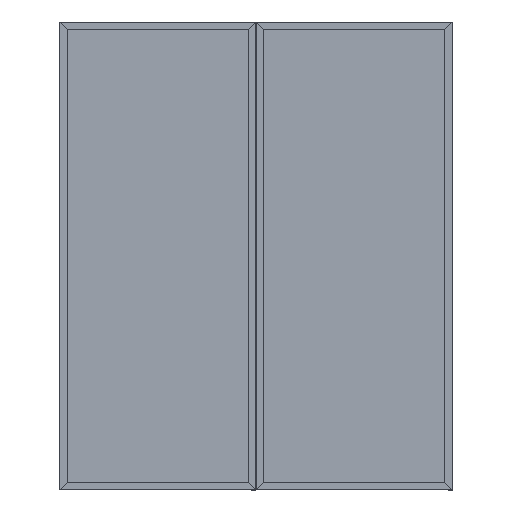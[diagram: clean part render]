
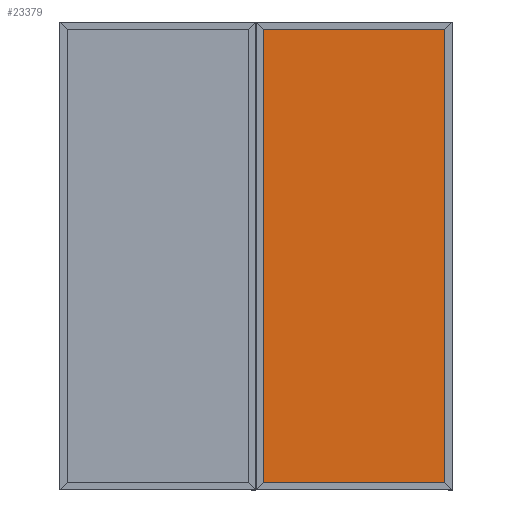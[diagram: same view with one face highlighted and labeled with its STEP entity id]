
A CAD part, top view. The second image highlights one B-rep face of the part: STEP entity #23379.
In plain terms, the highlighted planar face has unit normal (0, 0, 1).
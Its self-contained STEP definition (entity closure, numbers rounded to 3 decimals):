
#285 = CARTESIAN_POINT ( 'NONE',  ( 0., 1162.2, -13.25 ) ) ;
#316 = ORIENTED_EDGE ( 'NONE', *, *, #14767, .T. ) ;
#1506 = CARTESIAN_POINT ( 'NONE',  ( -465.07, 1162.2, -13.25 ) ) ;
#3052 = DIRECTION ( 'NONE',  ( -1., 0., 0. ) ) ;
#3083 = DIRECTION ( 'NONE',  ( 0., 1., 0. ) ) ;
#3328 = PLANE ( 'NONE',  #4207 ) ;
#4207 = AXIS2_PLACEMENT_3D ( 'NONE', #8181, #14870, #12574 ) ;
#5014 = ORIENTED_EDGE ( 'NONE', *, *, #22988, .F. ) ;
#6066 = VECTOR ( 'NONE', #26929, 1000. ) ;
#7982 = CARTESIAN_POINT ( 'NONE',  ( 465.07, -1162.2, -13.25 ) ) ;
#8094 = LINE ( 'NONE', #10069, #9018 ) ;
#8181 = CARTESIAN_POINT ( 'NONE',  ( 0., 0., -13.25 ) ) ;
#8459 = VERTEX_POINT ( 'NONE', #27879 ) ;
#8569 = CARTESIAN_POINT ( 'NONE',  ( -465.07, -1162.2, -13.25 ) ) ;
#8800 = VECTOR ( 'NONE', #23514, 1000. ) ;
#9018 = VECTOR ( 'NONE', #3083, 1000. ) ;
#10069 = CARTESIAN_POINT ( 'NONE',  ( 465.07, 0., -13.25 ) ) ;
#10937 = CARTESIAN_POINT ( 'NONE',  ( -465.07, 0., -13.25 ) ) ;
#11491 = ORIENTED_EDGE ( 'NONE', *, *, #13672, .T. ) ;
#11799 = LINE ( 'NONE', #285, #8800 ) ;
#11856 = VECTOR ( 'NONE', #3052, 1000. ) ;
#12574 = DIRECTION ( 'NONE',  ( -1., 0., 0. ) ) ;
#13672 = EDGE_CURVE ( 'NONE', #21928, #8459, #8094, .T. ) ;
#14767 = EDGE_CURVE ( 'NONE', #8459, #20516, #11799, .T. ) ;
#14870 = DIRECTION ( 'NONE',  ( 0., 0., -1. ) ) ;
#17744 = FACE_OUTER_BOUND ( 'NONE', #25568, .T. ) ;
#19301 = LINE ( 'NONE', #25879, #11856 ) ;
#20516 = VERTEX_POINT ( 'NONE', #1506 ) ;
#20957 = EDGE_CURVE ( 'NONE', #21928, #25426, #19301, .T. ) ;
#21928 = VERTEX_POINT ( 'NONE', #7982 ) ;
#22787 = ORIENTED_EDGE ( 'NONE', *, *, #20957, .F. ) ;
#22988 = EDGE_CURVE ( 'NONE', #25426, #20516, #24355, .T. ) ;
#23379 = ADVANCED_FACE ( 'NONE', ( #17744 ), #3328, .F. ) ;
#23514 = DIRECTION ( 'NONE',  ( -1., 0., 0. ) ) ;
#24355 = LINE ( 'NONE', #10937, #6066 ) ;
#25426 = VERTEX_POINT ( 'NONE', #8569 ) ;
#25568 = EDGE_LOOP ( 'NONE', ( #5014, #22787, #11491, #316 ) ) ;
#25879 = CARTESIAN_POINT ( 'NONE',  ( 0., -1162.2, -13.25 ) ) ;
#26929 = DIRECTION ( 'NONE',  ( 0., 1., 0. ) ) ;
#27879 = CARTESIAN_POINT ( 'NONE',  ( 465.07, 1162.2, -13.25 ) ) ;
